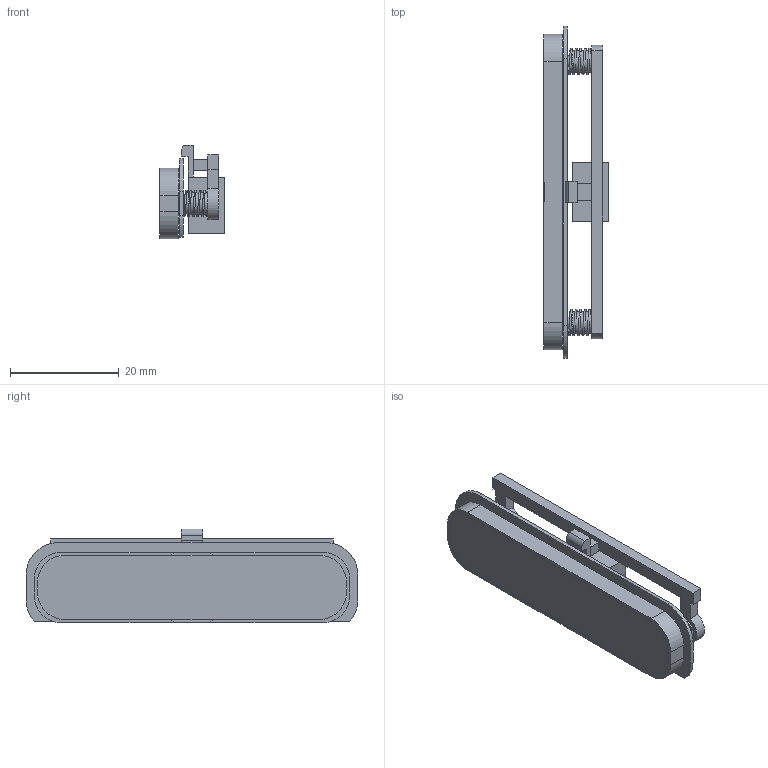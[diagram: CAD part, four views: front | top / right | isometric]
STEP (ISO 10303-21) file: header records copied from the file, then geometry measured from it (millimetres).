
FILE_DESCRIPTION(('Open CASCADE Model'),'2;1');
FILE_NAME('Open CASCADE Shape Model','2026-09-06T12:00:16',('Author'),( 'Open CASCADE'),'Open CASCADE STEP processor 7.7','Open CASCADE 7.7' ,'Unknown');
FILE_SCHEMA(('AUTOMOTIVE_DESIGN { 1 0 10303 214 1 1 1 1 }'));
Length unit declared in the file: millimetre
Products named in the file (13): Open CASCADE STEP translator 7.7 9; Open CASCADE STEP translator 7.7 9.1; Open CASCADE STEP translator 7.7 9.2; Open CASCADE STEP translator 7.7 9.3; Open CASCADE STEP translator 7.7 9.4; Open CASCADE STEP translator 7.7 9.5; Open CASCADE STEP translator 7.7 9.6; Open CASCADE STEP translator 7.7 9.7; Open CASCADE STEP translator 7.7 9.8; Open CASCADE STEP translator 7.7 9.9; Open CASCADE STEP translator 7.7 9.10; Open CASCADE STEP translator 7.7 9.11; Open CASCADE STEP translator 7.7 9.12
Assembly tree (12 placements, depth 2):
  Open CASCADE STEP translator 7.7 9
    Open CASCADE STEP translator 7.7 9.1
    Open CASCADE STEP translator 7.7 9.2
    Open CASCADE STEP translator 7.7 9.3
    Open CASCADE STEP translator 7.7 9.4
    Open CASCADE STEP translator 7.7 9.5
    Open CASCADE STEP translator 7.7 9.6
    Open CASCADE STEP translator 7.7 9.7
    Open CASCADE STEP translator 7.7 9.8
    Open CASCADE STEP translator 7.7 9.9
    Open CASCADE STEP translator 7.7 9.10
    Open CASCADE STEP translator 7.7 9.11
    Open CASCADE STEP translator 7.7 9.12
Bounding box: 11.8 x 61 x 17.2 mm (x, y, z)
Volume: 3853.4 mm3; surface area: 7276.9 mm2
Topology: 12 solids, 12 shells, 146 faces, 351 edges, 234 vertices
Faces by surface type: plane 105, cylinder 37, sphere 2, bspline 2
Full cylindrical faces by diameter (mm): 2 x8, 2.008 x2, 2.05 x2, 4 x6
Entity records: 10204 total; most frequent: CARTESIAN_POINT 2779, DIRECTION 1395, LINE 866, VECTOR 866, ORIENTED_EDGE 702, PCURVE 702, DEFINITIONAL_REPRESENTATION 702, EDGE_CURVE 351
